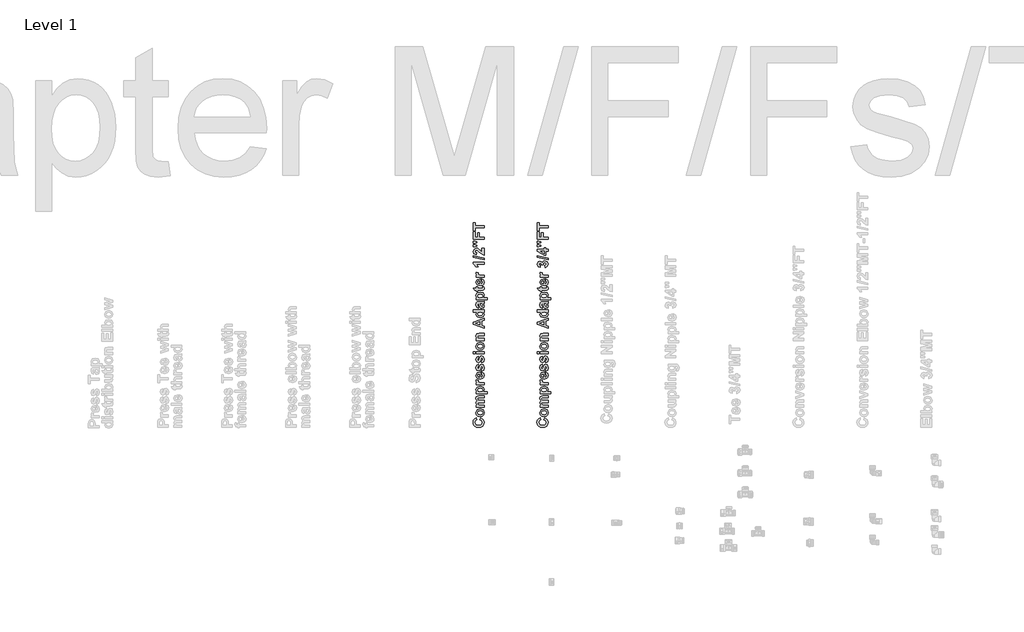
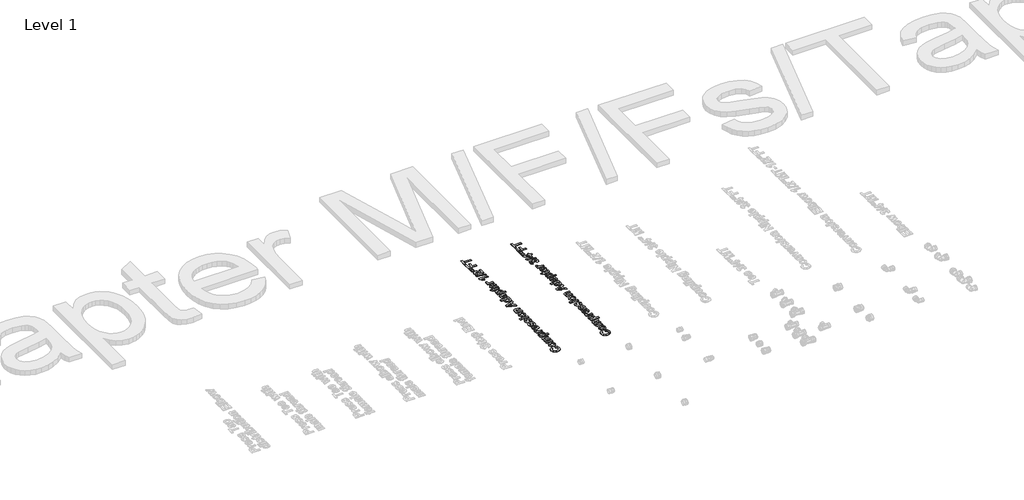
# One storey, part 54 of 58: 2 proxies.
"""IFC4 building model written with IfcOpenShell, lengths in millimetres."""

import ifcopenshell
import ifcopenshell.guid

model = None  # the IFC model being written
_history = None  # IfcOwnerHistory: only IFC2X3 demands one
_inside = {}  # id of a spatial element -> (the spatial element, [elements in it])
_under = {}  # id of a project, library or spatial element -> (it, [spatial elements below it])
_declared = {}  # id of a project -> (the project, [libraries it declares])
_typed = {}  # id of a type object -> (the type object, [elements of that type])
_made_of = {}  # id of a material, layer set ... -> (it, [elements and type objects made of it])


def new_model(schema):
    """Start an empty IFC model of exactly this schema.

    Asked for "IFC4X3", IfcOpenShell would pick the latest addendum, in which some entities
    have other attributes; the version numbers below select the first issue.
    IFC2X3 requires an IfcOwnerHistory on every rooted entity: one is made here for all.
    """
    global model, _history
    if schema == "IFC4X3":
        model = ifcopenshell.file(schema_version=(4, 3, 0, 0))
    else:
        model = ifcopenshell.file(schema=schema)
    _inside.clear()
    _under.clear()
    _declared.clear()
    _typed.clear()
    _made_of.clear()
    _history = None
    if model.schema == "IFC2X3":
        org = make("IfcOrganization", Name="unknown")
        user = make(
            "IfcPersonAndOrganization",
            ThePerson=make("IfcPerson", FamilyName="unknown"),
            TheOrganization=org,
        )
        app = make(
            "IfcApplication",
            ApplicationDeveloper=org,
            Version="unknown",
            ApplicationFullName="unknown",
            ApplicationIdentifier="unknown",
        )
        _history = make(
            "IfcOwnerHistory",
            OwningUser=user,
            OwningApplication=app,
            ChangeAction="ADDED",
            CreationDate=0,
        )
    return model


def make(cls, **values):
    """One entity of the class cls with the attributes given. An attribute that is None is left unset."""
    return model.create_entity(
        cls, **{name: value for name, value in values.items() if value is not None}
    )


def rooted(cls, **values):
    """An entity with a GlobalId (a new one), such as an element, a storey or a relation."""
    return make(cls, GlobalId=ifcopenshell.guid.new(), OwnerHistory=_history, **values)


def si_unit(unit_type, name, prefix=None):
    """IfcSIUnit, for example si_unit("LENGTHUNIT", "METRE", prefix="MILLI")."""
    return make("IfcSIUnit", UnitType=unit_type, Prefix=prefix, Name=name)


def assignment(units):
    """IfcUnitAssignment: the units of a project."""
    return None if units is None else make("IfcUnitAssignment", Units=units)


def point(xyz):
    """IfcCartesianPoint."""
    return None if xyz is None else make("IfcCartesianPoint", Coordinates=xyz)


def direction(xyz):
    """IfcDirection."""
    return None if xyz is None else make("IfcDirection", DirectionRatios=xyz)


def frame(location, z_axis=None, x_axis=None):
    """IfcAxis2Placement3D, a coordinate frame: its origin and axes. An axis left out is left unset."""
    return make(
        "IfcAxis2Placement3D",
        Location=point(location),
        Axis=direction(z_axis),
        RefDirection=direction(x_axis),
    )


def origin():
    """The frame at (0, 0, 0) with its axes left unset."""
    return frame((0.0, 0.0, 0.0))


def place(relative_to, where):
    """IfcLocalPlacement: puts the frame where relative to a parent placement (None: the world)."""
    return make(
        "IfcLocalPlacement", PlacementRelTo=relative_to, RelativePlacement=where
    )


def context(
    kind, dimensions, precision=None, world=None, true_north=None, identifier=None
):
    """IfcGeometricRepresentationContext, for example the 3D "Model" context."""
    return make(
        "IfcGeometricRepresentationContext",
        ContextIdentifier=identifier,
        ContextType=kind,
        CoordinateSpaceDimension=dimensions,
        Precision=precision,
        WorldCoordinateSystem=world,
        TrueNorth=true_north,
    )


def project(units=None, contexts=None):
    """IfcProject with its units and contexts."""
    return rooted(
        "IfcProject",
        Name="project",
        RepresentationContexts=contexts,
        UnitsInContext=assignment(units),
    )


def spatial(cls, under=None, at=None, **own):
    """A site, building, storey or space (cls), placed at a placement, below another one or the project."""
    s = rooted(cls, ObjectPlacement=at, **own)
    if under is not None:
        _under.setdefault(under.id(), (under, []))[1].append(s)
    return s


def polyline(points):
    """IfcPolyline through the points."""
    return make("IfcPolyline", Points=[point(p) for p in points])


def outline(outer, holes=None, kind="AREA"):
    """IfcArbitraryClosedProfileDef: a profile drawn as a closed curve; with holes, ...WithVoids."""
    if holes is None:
        return make("IfcArbitraryClosedProfileDef", ProfileType=kind, OuterCurve=outer)
    return make(
        "IfcArbitraryProfileDefWithVoids",
        ProfileType=kind,
        OuterCurve=outer,
        InnerCurves=holes,
    )


def extrude(swept, where, along, depth):
    """IfcExtrudedAreaSolid: the profile swept, set in the frame where, extruded along a direction by depth."""
    return make(
        "IfcExtrudedAreaSolid",
        SweptArea=swept,
        Position=where,
        ExtrudedDirection=direction(along),
        Depth=depth,
    )


def shape(context_of_items, identifier, shape_type, items):
    """IfcShapeRepresentation: the items that make up one representation, for example the "Body"."""
    return make(
        "IfcShapeRepresentation",
        ContextOfItems=context_of_items,
        RepresentationIdentifier=identifier,
        RepresentationType=shape_type,
        Items=items,
    )


def made_of(thing, what):
    """Note that an element or type object is made of a material, layer set ...; save() writes the relation."""
    if what is not None:
        _made_of.setdefault(what.id(), (what, []))[1].append(thing)
    return thing


def element(
    cls,
    number,
    at=None,
    inside=None,
    cuts=None,
    type_object=None,
    material=None,
    context=None,
    identifier="Body",
    shape_type=None,
    held_by="IfcProductDefinitionShape",
    body=None,
    shapes=None,
    **own,
):
    """One element of the class cls, such as IfcWall. Its Tag is "e" and its number.

    at: its placement. inside: the storey or other place that contains it. cuts: it is an
    opening in that element (IfcRelVoidsElement). A single representation is given by context,
    identifier, shape_type and body (its items); several are given by shapes. held_by: the class
    of the entity that holds the representations. save() writes the other relations.
    """
    e = rooted(cls, Tag="e%d" % number, ObjectPlacement=at, **own)
    if body is not None:
        shapes = [shape(context, identifier, shape_type, body)]
    if shapes is not None:
        e.Representation = make(held_by, Representations=shapes)
    if inside is not None:
        _inside.setdefault(inside.id(), (inside, []))[1].append(e)
    if cuts is not None:
        rooted(
            "IfcRelVoidsElement", RelatingBuildingElement=cuts, RelatedOpeningElement=e
        )
    if type_object is not None:
        _typed.setdefault(type_object.id(), (type_object, []))[1].append(e)
    return made_of(e, material)


def aggregate(whole, parts):
    """IfcRelAggregates: a whole, such as a stair, and the parts it consists of."""
    return rooted("IfcRelAggregates", RelatingObject=whole, RelatedObjects=parts)


def save(model, path):
    """Write the relations noted so far, then the file.

    IfcRelAggregates (storeys below a building ...), IfcRelContainedInSpatialStructure (elements
    in a storey), IfcRelDefinesByType, IfcRelAssociatesMaterial and IfcRelDeclares: one each for
    every whole, place, type object, material and project.
    """
    for whole, parts in _under.values():
        aggregate(whole, parts)
    for where, things in _inside.values():
        rooted(
            "IfcRelContainedInSpatialStructure",
            RelatedElements=things,
            RelatingStructure=where,
        )
    for kind, things in _typed.values():
        rooted("IfcRelDefinesByType", RelatedObjects=things, RelatingType=kind)
    for what, things in _made_of.values():
        rooted("IfcRelAssociatesMaterial", RelatedObjects=things, RelatingMaterial=what)
    for by, libraries in _declared.values():
        rooted("IfcRelDeclares", RelatingContext=by, RelatedDefinitions=libraries)
    model.write(path)


model = new_model("IFC4")

# Units and contexts
model_context = context("Model", 3, world=origin())
ifc_project = project(units=[si_unit("LENGTHUNIT", "METRE", prefix="MILLI")], contexts=[model_context])

# Site, building, storey
site = spatial("IfcSite", under=ifc_project)
building = spatial("IfcBuilding", under=site)
storey = spatial("IfcBuildingStorey", under=building, Name="Level 1", Elevation=27.3876384)

# Proxies
placement = place(None, origin())
element("IfcBuildingElementProxy", 1, Name="50mm Arial", ObjectType="50mm Arial", at=placement, inside=storey, context=model_context, shape_type="SweptSolid", body=[
    extrude(outline(polyline([(32399.7082138, 30439.3748851), (32402.9471325, 30449.0916413), (32415.1500119, 30441.4371654), (32419.1417262, 30427.8488892), (32417.4368656, 30418.5717909), (32412.322284, 30411.1102584), (32404.2502912, 30406.1949462), (32393.6731973, 30404.5565088), (32382.5583922, 30406.2091797), (32374.2396849, 30411.1671925), (32369.0491911, 30418.8200869), (32367.3190265, 30428.5574026), (32368.7455425, 30437.0848684), (32373.0250904, 30443.8410504), (32382.7038905, 30449.0916413), (32384.3233498, 30439.3748851), (32378.3958755, 30435.3452148), (32376.226053, 30427.8868453), (32380.1671592, 30418.0498948), (32392.9267277, 30414.273265), (32406.2619634, 30417.9360266), (32410.2346997, 30427.4693284), (32407.6979684, 30434.9023938), (32399.7082138, 30439.3748851)])), frame((0.0, 0.0, 27.3876384), z_axis=(0.0, 0.0, 1.0), x_axis=(1.0, 0.0, 0.0)), (0.0, 0.0, 1.0), 2.0),
    extrude(outline(polyline([(32399.9865584, 30454.7597491), (32390.5038647, 30457.1573081), (32383.5009681, 30463.9451202), (32381.0844311, 30473.7504406), (32386.5627585, 30487.4715631), (32400.4167273, 30492.8170442), (32414.4035423, 30487.4146289), (32419.9514559, 30473.8263527), (32417.6424611, 30464.1538786), (32410.867301, 30457.1573081), (32399.9865584, 30454.7597491)]), holes=[polyline([(32400.5179435, 30464.4765053), (32409.5325122, 30467.1650609), (32412.6638887, 30473.8010487), (32409.5325122, 30480.4243844), (32400.4420313, 30483.100288), (32391.5033747, 30480.4243844), (32388.3719982, 30473.8010487), (32391.5033747, 30467.1650609), (32400.5179435, 30464.4765053)])]), frame((0.0, 0.0, 27.3876384), z_axis=(0.0, 0.0, 1.0), x_axis=(1.0, 0.0, 0.0)), (0.0, 0.0, 1.0), 2.0),
    extrude(outline(polyline([(32381.8941608, 30499.2948816), (32381.8941608, 30509.0116378), (32386.8790591, 30509.0116378), (32381.0844311, 30519.8797284), (32382.5077841, 30525.6933345), (32386.815799, 30529.7356569), (32382.5077841, 30534.9040096), (32381.0844311, 30540.8314839), (32382.7481726, 30547.600318), (32387.6381807, 30551.7501826), (32395.3432647, 30552.7370407), (32419.1417262, 30552.7370407), (32419.1417262, 30543.0202845), (32397.6965416, 30543.0202845), (32390.4975387, 30542.0334264), (32388.3719982, 30537.959474), (32389.6435269, 30534.1954962), (32393.3695486, 30531.6524389), (32401.1252407, 30530.8743392), (32419.1417262, 30530.8743392), (32419.1417262, 30521.1575831), (32398.5821835, 30521.1575831), (32391.5160268, 30520.651502), (32389.1500979, 30519.0889768), (32388.3719982, 30516.2106408), (32389.6055708, 30512.2758606), (32393.1734422, 30509.7707594), (32400.9101563, 30509.0116378), (32419.1417262, 30509.0116378), (32419.1417262, 30499.2948816), (32381.8941608, 30499.2948816)])), frame((0.0, 0.0, 27.3876384), z_axis=(0.0, 0.0, 1.0), x_axis=(1.0, 0.0, 0.0)), (0.0, 0.0, 1.0), 2.0),
    extrude(outline(polyline([(32381.8941608, 30562.4537969), (32381.8941608, 30572.1705531), (32387.2586199, 30572.1705531), (32382.7924546, 30576.7885427), (32381.0844311, 30583.2537281), (32386.1642197, 30593.7612359), (32400.302859, 30598.0819029), (32414.7894291, 30593.6220636), (32419.9514559, 30582.8109072), (32418.7495134, 30577.3325798), (32414.6249528, 30572.1705531), (32432.9071308, 30572.1705531), (32432.9071308, 30562.4537969), (32381.8941608, 30562.4537969)]), holes=[polyline([(32399.8726901, 30572.1705531), (32409.5388382, 30574.6060681), (32412.6638887, 30580.5461945), (32409.7982048, 30586.1320641), (32400.3914232, 30588.3651467), (32391.3325724, 30586.0688039), (32388.3719982, 30580.3690661), (32391.2756383, 30574.5048519), (32399.8726901, 30572.1705531)])]), frame((0.0, 0.0, 27.3876384), z_axis=(0.0, 0.0, 1.0), x_axis=(1.0, 0.0, 0.0)), (0.0, 0.0, 1.0), 2.0),
    extrude(outline(polyline([(32419.1417262, 30615.0862262), (32419.1417262, 30605.36947), (32381.8941608, 30605.36947), (32381.8941608, 30615.0862262), (32387.0814916, 30615.0862262), (32382.2420915, 30618.9703983), (32381.0844311, 30622.8925265), (32383.1340594, 30628.8516308), (32392.3826906, 30626.0175769), (32390.8011873, 30621.5134556), (32391.9082396, 30618.0910825), (32395.8999539, 30615.8896299), (32407.995291, 30615.0862262), (32419.1417262, 30615.0862262)])), frame((0.0, 0.0, 27.3876384), z_axis=(0.0, 0.0, 1.0), x_axis=(1.0, 0.0, 0.0)), (0.0, 0.0, 1.0), 2.0),
    extrude(outline(polyline([(32407.8055106, 30653.953251), (32409.42497, 30663.6700072), (32417.2629003, 30657.8753791), (32419.9514559, 30647.9688426), (32418.3667896, 30639.7798185), (32413.6127907, 30634.0389616), (32400.7962881, 30630.4710902), (32386.32237, 30635.202948), (32381.0844311, 30647.1717649), (32386.4615423, 30659.9882675), (32402.9471325, 30664.4797369), (32402.9471325, 30640.1878464), (32410.1081794, 30642.4778631), (32412.6638887, 30647.9308865), (32411.5125543, 30651.6632342), (32407.8055106, 30653.953251)]), holes=[polyline([(32397.2790248, 30654.7629807), (32390.643037, 30652.5994842), (32388.3719982, 30647.5892818), (32390.7632312, 30642.3766469), (32397.2790248, 30640.3523227), (32397.2790248, 30654.7629807)])]), frame((0.0, 0.0, 27.3876384), z_axis=(0.0, 0.0, 1.0), x_axis=(1.0, 0.0, 0.0)), (0.0, 0.0, 1.0), 2.0),
    extrude(outline(polyline([(32408.6152403, 30667.7186556), (32406.9957809, 30677.4354118), (32411.2215577, 30679.9215349), (32412.6638887, 30685.1657998), (32411.2848179, 30690.7453434), (32408.7038045, 30692.0105461), (32406.8819127, 30691.3399887), (32405.604058, 30688.1643301), (32400.8468962, 30673.6018478), (32392.4839068, 30669.338115), (32384.3739579, 30672.9945506), (32381.0844311, 30684.3434181), (32383.7413566, 30695.2115087), (32391.610917, 30700.1078429), (32393.2303763, 30690.3910867), (32389.6245488, 30688.5185868), (32388.3719982, 30684.5964587), (32389.4347685, 30679.9784691), (32391.4084846, 30679.0548711), (32393.1671162, 30679.9784691), (32395.8873019, 30688.5755209), (32400.2269469, 30698.8426403), (32407.527166, 30701.7273023), (32416.2886942, 30697.5458076), (32419.9514559, 30685.1657998), (32416.9023175, 30673.3930894), (32408.6152403, 30667.7186556)])), frame((0.0, 0.0, 27.3876384), z_axis=(0.0, 0.0, 1.0), x_axis=(1.0, 0.0, 0.0)), (0.0, 0.0, 1.0), 2.0),
    extrude(outline(polyline([(32408.6152403, 30706.5856804), (32406.9957809, 30716.3024365), (32411.2215577, 30718.7885597), (32412.6638887, 30724.0328246), (32411.2848179, 30729.6123682), (32408.7038045, 30730.8775708), (32406.8819127, 30730.2070134), (32405.604058, 30727.0313548), (32400.8468962, 30712.4688726), (32392.4839068, 30708.2051397), (32384.3739579, 30711.8615753), (32381.0844311, 30723.2104429), (32383.7413566, 30734.0785335), (32391.610917, 30738.9748677), (32393.2303763, 30729.2581115), (32389.6245488, 30727.3856116), (32388.3719982, 30723.4634834), (32389.4347685, 30718.8454938), (32391.4084846, 30717.9218959), (32393.1671162, 30718.8454938), (32395.8873019, 30727.4425457), (32400.2269469, 30737.709665), (32407.527166, 30740.594327), (32416.2886942, 30736.4128323), (32419.9514559, 30724.0328246), (32416.9023175, 30712.2601141), (32408.6152403, 30706.5856804)])), frame((0.0, 0.0, 27.3876384), z_axis=(0.0, 0.0, 1.0), x_axis=(1.0, 0.0, 0.0)), (0.0, 0.0, 1.0), 2.0),
    extrude(outline(polyline([(32377.0357827, 30749.5013535), (32368.1287562, 30749.5013535), (32368.1287562, 30759.2181097), (32377.0357827, 30759.2181097), (32377.0357827, 30749.5013535)])), frame((0.0, 0.0, 27.3876384), z_axis=(0.0, 0.0, 1.0), x_axis=(1.0, 0.0, 0.0)), (0.0, 0.0, 1.0), 2.0),
    extrude(outline(polyline([(32419.1417262, 30749.5013535), (32381.8941608, 30749.5013535), (32381.8941608, 30759.2181097), (32419.1417262, 30759.2181097), (32419.1417262, 30749.5013535)])), frame((0.0, 0.0, 27.3876384), z_axis=(0.0, 0.0, 1.0), x_axis=(1.0, 0.0, 0.0)), (0.0, 0.0, 1.0), 2.0),
    extrude(outline(polyline([(32399.9865584, 30766.5056769), (32390.5038647, 30768.9032358), (32383.5009681, 30775.6910479), (32381.0844311, 30785.4963683), (32386.5627585, 30799.2174908), (32400.4167273, 30804.5629719), (32414.4035423, 30799.1605567), (32419.9514559, 30785.5722805), (32417.6424611, 30775.8998064), (32410.867301, 30768.9032358), (32399.9865584, 30766.5056769)]), holes=[polyline([(32400.5179435, 30776.222433), (32409.5325122, 30778.9109886), (32412.6638887, 30785.5469764), (32409.5325122, 30792.1703122), (32400.4420313, 30794.8462157), (32391.5033747, 30792.1703122), (32388.3719982, 30785.5469764), (32391.5033747, 30778.9109886), (32400.5179435, 30776.222433)])]), frame((0.0, 0.0, 27.3876384), z_axis=(0.0, 0.0, 1.0), x_axis=(1.0, 0.0, 0.0)), (0.0, 0.0, 1.0), 2.0),
    extrude(outline(polyline([(32419.1417262, 30845.0494561), (32419.1417262, 30835.3326999), (32399.9992104, 30835.3326999), (32392.1296501, 30834.7254026), (32389.3588563, 30832.7390345), (32388.3719982, 30829.4368556), (32389.7826992, 30824.9896684), (32393.527699, 30822.2947868), (32402.1500549, 30821.5672953), (32419.1417262, 30821.5672953), (32419.1417262, 30811.8505391), (32381.8941608, 30811.8505391), (32381.8941608, 30821.5672953), (32387.2586199, 30821.5672953), (32382.6279783, 30826.7830931), (32381.0844311, 30833.1945074), (32382.2610695, 30838.8373112), (32385.2595998, 30842.7088312), (32389.3904864, 30844.537049), (32396.0138221, 30845.0494561), (32419.1417262, 30845.0494561)])), frame((0.0, 0.0, 27.3876384), z_axis=(0.0, 0.0, 1.0), x_axis=(1.0, 0.0, 0.0)), (0.0, 0.0, 1.0), 2.0),
    extrude(outline(polyline([(32419.1417262, 30917.1153978), (32419.1417262, 30906.9052126), (32407.8055106, 30902.9071723), (32407.8055106, 30883.6381362), (32419.1417262, 30879.690704), (32419.1417262, 30869.3413465), (32368.1287562, 30887.9651292), (32368.1287562, 30898.3144867), (32419.1417262, 30917.1153978)]), holes=[polyline([(32398.8984841, 30899.7947738), (32380.2747014, 30893.2283722), (32398.8984841, 30886.7505347), (32398.8984841, 30899.7947738)])]), frame((0.0, 0.0, 27.3876384), z_axis=(0.0, 0.0, 1.0), x_axis=(1.0, 0.0, 0.0)), (0.0, 0.0, 1.0), 2.0),
    extrude(outline(polyline([(32419.1417262, 30955.1726929), (32419.1417262, 30945.4559367), (32413.777267, 30945.4559367), (32418.4268867, 30940.32554), (32419.9514559, 30934.3727617), (32414.7894291, 30923.9032099), (32400.3787712, 30919.5445869), (32386.0060693, 30923.8968839), (32381.0844311, 30934.9041468), (32386.1831977, 30945.4559367), (32368.1287562, 30945.4559367), (32368.1287562, 30955.1726929), (32419.1417262, 30955.1726929)]), holes=[polyline([(32399.80943, 30929.261343), (32408.6911525, 30930.8808024), (32412.6638887, 30937.4219), (32409.6843365, 30943.1153118), (32400.783636, 30945.4559367), (32391.2756383, 30943.184898), (32388.3719982, 30937.3586399), (32391.2440082, 30931.5893159), (32399.80943, 30929.261343)])]), frame((0.0, 0.0, 27.3876384), z_axis=(0.0, 0.0, 1.0), x_axis=(1.0, 0.0, 0.0)), (0.0, 0.0, 1.0), 2.0),
    extrude(outline(polyline([(32393.2303763, 30972.9867459), (32391.610917, 30964.0797194), (32383.6654445, 30968.9697276), (32381.0844311, 30979.274803), (32382.6469563, 30988.5234342), (32386.6070406, 30992.7998191), (32395.4191769, 30994.0397176), (32406.9072168, 30994.0397176), (32414.1441758, 30994.5521247), (32419.1417262, 30996.4689067), (32419.1417262, 30986.7521505), (32416.0546318, 30985.8412046), (32418.6672752, 30980.2996171), (32419.9514559, 30974.3911208), (32416.8327314, 30965.6548967), (32408.956845, 30962.46026), (32403.3393453, 30963.883613), (32399.5563895, 30967.8753273), (32397.2663727, 30975.2767627), (32394.8498357, 30984.3229615), (32389.6245488, 30983.1146929), (32388.3719982, 30978.5662895), (32389.4474205, 30975.0363742), (32393.2303763, 30972.9867459)]), holes=[polyline([(32402.1374028, 30984.3229615), (32403.4848436, 30978.8446341), (32405.0220648, 30973.9356479), (32408.1218113, 30972.1770162), (32411.3164479, 30973.5877171), (32412.6638887, 30977.1745666), (32411.0950375, 30981.8178602), (32408.1850714, 30983.9687047), (32403.8960345, 30984.3229615), (32402.1374028, 30984.3229615)])]), frame((0.0, 0.0, 27.3876384), z_axis=(0.0, 0.0, 1.0), x_axis=(1.0, 0.0, 0.0)), (0.0, 0.0, 1.0), 2.0),
    extrude(outline(polyline([(32381.8941608, 31003.7564738), (32381.8941608, 31013.47323), (32387.2586199, 31013.47323), (32382.7924546, 31018.0912196), (32381.0844311, 31024.5564051), (32386.1642197, 31035.0639129), (32400.302859, 31039.3845799), (32414.7894291, 31034.9247406), (32419.9514559, 31024.1135841), (32418.7495134, 31018.6352567), (32414.6249528, 31013.47323), (32432.9071308, 31013.47323), (32432.9071308, 31003.7564738), (32381.8941608, 31003.7564738)]), holes=[polyline([(32399.8726901, 31013.47323), (32409.5388382, 31015.9087451), (32412.6638887, 31021.8488714), (32409.7982048, 31027.434741), (32400.3914232, 31029.6678237), (32391.3325724, 31027.3714809), (32388.3719982, 31021.6717431), (32391.2756383, 31015.8075289), (32399.8726901, 31013.47323)])]), frame((0.0, 0.0, 27.3876384), z_axis=(0.0, 0.0, 1.0), x_axis=(1.0, 0.0, 0.0)), (0.0, 0.0, 1.0), 2.0),
    extrude(outline(polyline([(32381.8941608, 31064.4862), (32389.1817279, 31064.4862), (32389.1817279, 31057.1986329), (32405.1612371, 31057.1986329), (32410.8103669, 31057.4200433), (32412.1388296, 31058.4258794), (32412.6638887, 31060.3363354), (32411.7276388, 31064.8910649), (32418.6356451, 31065.2959297), (32419.9514559, 31057.3378052), (32419.04051, 31052.428819), (32416.6872331, 31049.2215303), (32412.777757, 31047.7981773), (32405.7052743, 31047.4818767), (32389.1817279, 31047.4818767), (32389.1817279, 31042.6234986), (32381.8941608, 31042.6234986), (32381.8941608, 31047.4818767), (32374.6065936, 31047.4818767), (32368.9384859, 31057.1986329), (32381.8941608, 31057.1986329), (32381.8941608, 31064.4862)])), frame((0.0, 0.0, 27.3876384), z_axis=(0.0, 0.0, 1.0), x_axis=(1.0, 0.0, 0.0)), (0.0, 0.0, 1.0), 2.0),
    extrude(outline(polyline([(32407.8055106, 31091.2072795), (32409.42497, 31100.9240357), (32417.2629003, 31095.1294077), (32419.9514559, 31085.2228711), (32418.3667896, 31077.0338471), (32413.6127907, 31071.2929902), (32400.7962881, 31067.7251188), (32386.32237, 31072.4569766), (32381.0844311, 31084.4257935), (32386.4615423, 31097.2422961), (32402.9471325, 31101.7337654), (32402.9471325, 31077.4418749), (32410.1081794, 31079.7318917), (32412.6638887, 31085.184915), (32411.5125543, 31088.9172628), (32407.8055106, 31091.2072795)]), holes=[polyline([(32397.2790248, 31092.0170092), (32390.643037, 31089.8535127), (32388.3719982, 31084.8433103), (32390.7632312, 31079.6306755), (32397.2790248, 31077.6063513), (32397.2790248, 31092.0170092)])]), frame((0.0, 0.0, 27.3876384), z_axis=(0.0, 0.0, 1.0), x_axis=(1.0, 0.0, 0.0)), (0.0, 0.0, 1.0), 2.0),
    extrude(outline(polyline([(32419.1417262, 31118.7380887), (32419.1417262, 31109.0213326), (32381.8941608, 31109.0213326), (32381.8941608, 31118.7380887), (32387.0814916, 31118.7380887), (32382.2420915, 31122.6222608), (32381.0844311, 31126.544389), (32383.1340594, 31132.5034934), (32392.3826906, 31129.6694395), (32390.8011873, 31125.1653181), (32391.9082396, 31121.742945), (32395.8999539, 31119.5414924), (32407.995291, 31118.7380887), (32419.1417262, 31118.7380887)])), frame((0.0, 0.0, 27.3876384), z_axis=(0.0, 0.0, 1.0), x_axis=(1.0, 0.0, 0.0)), (0.0, 0.0, 1.0), 2.0),
    extrude(outline(polyline([(32419.1417262, 31178.6580853), (32419.1417262, 31168.9413291), (32382.6785864, 31168.9413291), (32390.8011873, 31156.7953838), (32381.0844311, 31156.7953838), (32376.3209432, 31164.9053327), (32368.1287562, 31170.9150452), (32368.1287562, 31178.6580853), (32419.1417262, 31178.6580853)])), frame((0.0, 0.0, 27.3876384), z_axis=(0.0, 0.0, 1.0), x_axis=(1.0, 0.0, 0.0)), (0.0, 0.0, 1.0), 2.0),
    extrude(outline(polyline([(32419.1417262, 31189.8171724), (32368.1287562, 31201.9631177), (32368.1287562, 31209.4278132), (32419.1417262, 31197.281868), (32419.1417262, 31189.8171724)])), frame((0.0, 0.0, 27.3876384), z_axis=(0.0, 0.0, 1.0), x_axis=(1.0, 0.0, 0.0)), (0.0, 0.0, 1.0), 2.0),
    extrude(outline(polyline([(32409.42497, 31245.0559192), (32419.1417262, 31245.0559192), (32419.1417262, 31212.6667319), (32409.6084244, 31215.7664784), (32397.6585855, 31225.9513595), (32389.5106806, 31233.4666631), (32383.6654445, 31235.339163), (32378.7501322, 31233.7639858), (32377.0357827, 31229.4180147), (32378.7248282, 31225.0657177), (32384.3233498, 31223.1932178), (32383.437708, 31213.4764616), (32371.6903016, 31218.6890964), (32368.1287562, 31229.6330992), (32372.1204705, 31240.9440107), (32382.0459851, 31245.0559192), (32388.4732145, 31243.9298889), (32394.8624877, 31240.3620175), (32401.239109, 31234.3206749), (32406.7680445, 31228.7727614), (32409.42497, 31226.9508696), (32409.42497, 31245.0559192)])), frame((0.0, 0.0, 27.3876384), z_axis=(0.0, 0.0, 1.0), x_axis=(1.0, 0.0, 0.0)), (0.0, 0.0, 1.0), 2.0),
    extrude(outline(polyline([(32385.9428092, 31253.2164762), (32376.6056138, 31251.5337567), (32368.1287562, 31251.5337567), (32368.1287562, 31261.2505129), (32376.6056138, 31261.2505129), (32385.9428092, 31259.7955298), (32385.9428092, 31253.2164762)])), frame((0.0, 0.0, 27.3876384), z_axis=(0.0, 0.0, 1.0), x_axis=(1.0, 0.0, 0.0)), (0.0, 0.0, 1.0), 2.0),
    extrude(outline(polyline([(32385.9428092, 31269.4110698), (32376.6056138, 31267.7283503), (32368.1287562, 31267.7283503), (32368.1287562, 31277.4451065), (32376.6056138, 31277.4451065), (32385.9428092, 31275.9901235), (32385.9428092, 31269.4110698)])), frame((0.0, 0.0, 27.3876384), z_axis=(0.0, 0.0, 1.0), x_axis=(1.0, 0.0, 0.0)), (0.0, 0.0, 1.0), 2.0),
    extrude(outline(polyline([(32419.1417262, 31286.352133), (32368.1287562, 31286.352133), (32368.1287562, 31321.1705094), (32377.0357827, 31321.1705094), (32377.0357827, 31296.0688892), (32388.3719982, 31296.0688892), (32388.3719982, 31317.9315906), (32397.2790248, 31317.9315906), (32397.2790248, 31296.0688892), (32419.1417262, 31296.0688892), (32419.1417262, 31286.352133)])), frame((0.0, 0.0, 27.3876384), z_axis=(0.0, 0.0, 1.0), x_axis=(1.0, 0.0, 0.0)), (0.0, 0.0, 1.0), 2.0),
    extrude(outline(polyline([(32419.1417262, 31340.6040218), (32377.0357827, 31340.6040218), (32377.0357827, 31326.0288875), (32368.1287562, 31326.0288875), (32368.1287562, 31364.8959122), (32377.0357827, 31364.8959122), (32377.0357827, 31350.3207779), (32419.1417262, 31350.3207779), (32419.1417262, 31340.6040218)])), frame((0.0, 0.0, 27.3876384), z_axis=(0.0, 0.0, 1.0), x_axis=(1.0, 0.0, 0.0)), (0.0, 0.0, 1.0), 2.0),
])
element("IfcBuildingElementProxy", 2, Name="50mm Arial", ObjectType="50mm Arial", at=placement, inside=storey, context=model_context, shape_type="SweptSolid", body=[
    extrude(outline(polyline([(32699.7082138, 30439.3748851), (32702.9471325, 30449.0916413), (32715.1500119, 30441.4371654), (32719.1417262, 30427.8488892), (32717.4368656, 30418.5717909), (32712.322284, 30411.1102584), (32704.2502912, 30406.1949462), (32693.6731973, 30404.5565088), (32682.5583922, 30406.2091797), (32674.2396849, 30411.1671925), (32669.0491911, 30418.8200869), (32667.3190265, 30428.5574026), (32668.7455425, 30437.0848684), (32673.0250904, 30443.8410504), (32682.7038905, 30449.0916413), (32684.3233498, 30439.3748851), (32678.3958755, 30435.3452148), (32676.226053, 30427.8868453), (32680.1671592, 30418.0498948), (32692.9267277, 30414.273265), (32706.2619634, 30417.9360266), (32710.2346997, 30427.4693284), (32707.6979684, 30434.9023938), (32699.7082138, 30439.3748851)])), frame((0.0, 0.0, 27.3876384), z_axis=(0.0, 0.0, 1.0), x_axis=(1.0, 0.0, 0.0)), (0.0, 0.0, 1.0), 2.0),
    extrude(outline(polyline([(32699.9865584, 30454.7597491), (32690.5038647, 30457.1573081), (32683.5009681, 30463.9451202), (32681.0844311, 30473.7504406), (32686.5627585, 30487.4715631), (32700.4167273, 30492.8170442), (32714.4035423, 30487.4146289), (32719.9514559, 30473.8263527), (32717.6424611, 30464.1538786), (32710.867301, 30457.1573081), (32699.9865584, 30454.7597491)]), holes=[polyline([(32700.5179435, 30464.4765053), (32709.5325122, 30467.1650609), (32712.6638887, 30473.8010487), (32709.5325122, 30480.4243844), (32700.4420313, 30483.100288), (32691.5033747, 30480.4243844), (32688.3719982, 30473.8010487), (32691.5033747, 30467.1650609), (32700.5179435, 30464.4765053)])]), frame((0.0, 0.0, 27.3876384), z_axis=(0.0, 0.0, 1.0), x_axis=(1.0, 0.0, 0.0)), (0.0, 0.0, 1.0), 2.0),
    extrude(outline(polyline([(32681.8941608, 30499.2948816), (32681.8941608, 30509.0116378), (32686.8790591, 30509.0116378), (32681.0844311, 30519.8797284), (32682.5077841, 30525.6933345), (32686.815799, 30529.7356569), (32682.5077841, 30534.9040096), (32681.0844311, 30540.8314839), (32682.7481726, 30547.600318), (32687.6381807, 30551.7501826), (32695.3432647, 30552.7370407), (32719.1417262, 30552.7370407), (32719.1417262, 30543.0202845), (32697.6965416, 30543.0202845), (32690.4975387, 30542.0334264), (32688.3719982, 30537.959474), (32689.6435269, 30534.1954962), (32693.3695486, 30531.6524389), (32701.1252407, 30530.8743392), (32719.1417262, 30530.8743392), (32719.1417262, 30521.1575831), (32698.5821835, 30521.1575831), (32691.5160268, 30520.651502), (32689.1500979, 30519.0889768), (32688.3719982, 30516.2106408), (32689.6055708, 30512.2758606), (32693.1734422, 30509.7707594), (32700.9101563, 30509.0116378), (32719.1417262, 30509.0116378), (32719.1417262, 30499.2948816), (32681.8941608, 30499.2948816)])), frame((0.0, 0.0, 27.3876384), z_axis=(0.0, 0.0, 1.0), x_axis=(1.0, 0.0, 0.0)), (0.0, 0.0, 1.0), 2.0),
    extrude(outline(polyline([(32681.8941608, 30562.4537969), (32681.8941608, 30572.1705531), (32687.2586199, 30572.1705531), (32682.7924546, 30576.7885427), (32681.0844311, 30583.2537281), (32686.1642197, 30593.7612359), (32700.302859, 30598.0819029), (32714.7894291, 30593.6220636), (32719.9514559, 30582.8109072), (32718.7495134, 30577.3325798), (32714.6249528, 30572.1705531), (32732.9071308, 30572.1705531), (32732.9071308, 30562.4537969), (32681.8941608, 30562.4537969)]), holes=[polyline([(32699.8726901, 30572.1705531), (32709.5388382, 30574.6060681), (32712.6638887, 30580.5461945), (32709.7982048, 30586.1320641), (32700.3914232, 30588.3651467), (32691.3325724, 30586.0688039), (32688.3719982, 30580.3690661), (32691.2756383, 30574.5048519), (32699.8726901, 30572.1705531)])]), frame((0.0, 0.0, 27.3876384), z_axis=(0.0, 0.0, 1.0), x_axis=(1.0, 0.0, 0.0)), (0.0, 0.0, 1.0), 2.0),
    extrude(outline(polyline([(32719.1417262, 30615.0862262), (32719.1417262, 30605.36947), (32681.8941608, 30605.36947), (32681.8941608, 30615.0862262), (32687.0814916, 30615.0862262), (32682.2420915, 30618.9703983), (32681.0844311, 30622.8925265), (32683.1340594, 30628.8516308), (32692.3826906, 30626.0175769), (32690.8011873, 30621.5134556), (32691.9082396, 30618.0910825), (32695.8999539, 30615.8896299), (32707.995291, 30615.0862262), (32719.1417262, 30615.0862262)])), frame((0.0, 0.0, 27.3876384), z_axis=(0.0, 0.0, 1.0), x_axis=(1.0, 0.0, 0.0)), (0.0, 0.0, 1.0), 2.0),
    extrude(outline(polyline([(32707.8055106, 30653.953251), (32709.42497, 30663.6700072), (32717.2629003, 30657.8753791), (32719.9514559, 30647.9688426), (32718.3667896, 30639.7798185), (32713.6127907, 30634.0389616), (32700.7962881, 30630.4710902), (32686.32237, 30635.202948), (32681.0844311, 30647.1717649), (32686.4615423, 30659.9882675), (32702.9471325, 30664.4797369), (32702.9471325, 30640.1878464), (32710.1081794, 30642.4778631), (32712.6638887, 30647.9308865), (32711.5125543, 30651.6632342), (32707.8055106, 30653.953251)]), holes=[polyline([(32697.2790248, 30654.7629807), (32690.643037, 30652.5994842), (32688.3719982, 30647.5892818), (32690.7632312, 30642.3766469), (32697.2790248, 30640.3523227), (32697.2790248, 30654.7629807)])]), frame((0.0, 0.0, 27.3876384), z_axis=(0.0, 0.0, 1.0), x_axis=(1.0, 0.0, 0.0)), (0.0, 0.0, 1.0), 2.0),
    extrude(outline(polyline([(32708.6152403, 30667.7186556), (32706.9957809, 30677.4354118), (32711.2215577, 30679.9215349), (32712.6638887, 30685.1657998), (32711.2848179, 30690.7453434), (32708.7038045, 30692.0105461), (32706.8819127, 30691.3399887), (32705.604058, 30688.1643301), (32700.8468962, 30673.6018478), (32692.4839068, 30669.338115), (32684.3739579, 30672.9945506), (32681.0844311, 30684.3434181), (32683.7413566, 30695.2115087), (32691.610917, 30700.1078429), (32693.2303763, 30690.3910867), (32689.6245488, 30688.5185868), (32688.3719982, 30684.5964587), (32689.4347685, 30679.9784691), (32691.4084846, 30679.0548711), (32693.1671162, 30679.9784691), (32695.8873019, 30688.5755209), (32700.2269469, 30698.8426403), (32707.527166, 30701.7273023), (32716.2886942, 30697.5458076), (32719.9514559, 30685.1657998), (32716.9023175, 30673.3930894), (32708.6152403, 30667.7186556)])), frame((0.0, 0.0, 27.3876384), z_axis=(0.0, 0.0, 1.0), x_axis=(1.0, 0.0, 0.0)), (0.0, 0.0, 1.0), 2.0),
    extrude(outline(polyline([(32708.6152403, 30706.5856804), (32706.9957809, 30716.3024365), (32711.2215577, 30718.7885597), (32712.6638887, 30724.0328246), (32711.2848179, 30729.6123682), (32708.7038045, 30730.8775708), (32706.8819127, 30730.2070134), (32705.604058, 30727.0313548), (32700.8468962, 30712.4688726), (32692.4839068, 30708.2051397), (32684.3739579, 30711.8615753), (32681.0844311, 30723.2104429), (32683.7413566, 30734.0785335), (32691.610917, 30738.9748677), (32693.2303763, 30729.2581115), (32689.6245488, 30727.3856116), (32688.3719982, 30723.4634834), (32689.4347685, 30718.8454938), (32691.4084846, 30717.9218959), (32693.1671162, 30718.8454938), (32695.8873019, 30727.4425457), (32700.2269469, 30737.709665), (32707.527166, 30740.594327), (32716.2886942, 30736.4128323), (32719.9514559, 30724.0328246), (32716.9023175, 30712.2601141), (32708.6152403, 30706.5856804)])), frame((0.0, 0.0, 27.3876384), z_axis=(0.0, 0.0, 1.0), x_axis=(1.0, 0.0, 0.0)), (0.0, 0.0, 1.0), 2.0),
    extrude(outline(polyline([(32677.0357827, 30749.5013535), (32668.1287562, 30749.5013535), (32668.1287562, 30759.2181097), (32677.0357827, 30759.2181097), (32677.0357827, 30749.5013535)])), frame((0.0, 0.0, 27.3876384), z_axis=(0.0, 0.0, 1.0), x_axis=(1.0, 0.0, 0.0)), (0.0, 0.0, 1.0), 2.0),
    extrude(outline(polyline([(32719.1417262, 30749.5013535), (32681.8941608, 30749.5013535), (32681.8941608, 30759.2181097), (32719.1417262, 30759.2181097), (32719.1417262, 30749.5013535)])), frame((0.0, 0.0, 27.3876384), z_axis=(0.0, 0.0, 1.0), x_axis=(1.0, 0.0, 0.0)), (0.0, 0.0, 1.0), 2.0),
    extrude(outline(polyline([(32699.9865584, 30766.5056769), (32690.5038647, 30768.9032358), (32683.5009681, 30775.6910479), (32681.0844311, 30785.4963683), (32686.5627585, 30799.2174908), (32700.4167273, 30804.5629719), (32714.4035423, 30799.1605567), (32719.9514559, 30785.5722805), (32717.6424611, 30775.8998064), (32710.867301, 30768.9032358), (32699.9865584, 30766.5056769)]), holes=[polyline([(32700.5179435, 30776.222433), (32709.5325122, 30778.9109886), (32712.6638887, 30785.5469764), (32709.5325122, 30792.1703122), (32700.4420313, 30794.8462157), (32691.5033747, 30792.1703122), (32688.3719982, 30785.5469764), (32691.5033747, 30778.9109886), (32700.5179435, 30776.222433)])]), frame((0.0, 0.0, 27.3876384), z_axis=(0.0, 0.0, 1.0), x_axis=(1.0, 0.0, 0.0)), (0.0, 0.0, 1.0), 2.0),
    extrude(outline(polyline([(32719.1417262, 30845.0494561), (32719.1417262, 30835.3326999), (32699.9992104, 30835.3326999), (32692.1296501, 30834.7254026), (32689.3588563, 30832.7390345), (32688.3719982, 30829.4368556), (32689.7826992, 30824.9896684), (32693.527699, 30822.2947868), (32702.1500549, 30821.5672953), (32719.1417262, 30821.5672953), (32719.1417262, 30811.8505391), (32681.8941608, 30811.8505391), (32681.8941608, 30821.5672953), (32687.2586199, 30821.5672953), (32682.6279783, 30826.7830931), (32681.0844311, 30833.1945074), (32682.2610695, 30838.8373112), (32685.2595998, 30842.7088312), (32689.3904864, 30844.537049), (32696.0138221, 30845.0494561), (32719.1417262, 30845.0494561)])), frame((0.0, 0.0, 27.3876384), z_axis=(0.0, 0.0, 1.0), x_axis=(1.0, 0.0, 0.0)), (0.0, 0.0, 1.0), 2.0),
    extrude(outline(polyline([(32719.1417262, 30917.1153978), (32719.1417262, 30906.9052126), (32707.8055106, 30902.9071723), (32707.8055106, 30883.6381362), (32719.1417262, 30879.690704), (32719.1417262, 30869.3413465), (32668.1287562, 30887.9651292), (32668.1287562, 30898.3144867), (32719.1417262, 30917.1153978)]), holes=[polyline([(32698.8984841, 30899.7947738), (32680.2747014, 30893.2283722), (32698.8984841, 30886.7505347), (32698.8984841, 30899.7947738)])]), frame((0.0, 0.0, 27.3876384), z_axis=(0.0, 0.0, 1.0), x_axis=(1.0, 0.0, 0.0)), (0.0, 0.0, 1.0), 2.0),
    extrude(outline(polyline([(32719.1417262, 30955.1726929), (32719.1417262, 30945.4559367), (32713.777267, 30945.4559367), (32718.4268867, 30940.32554), (32719.9514559, 30934.3727617), (32714.7894291, 30923.9032099), (32700.3787712, 30919.5445869), (32686.0060693, 30923.8968839), (32681.0844311, 30934.9041468), (32686.1831977, 30945.4559367), (32668.1287562, 30945.4559367), (32668.1287562, 30955.1726929), (32719.1417262, 30955.1726929)]), holes=[polyline([(32699.80943, 30929.261343), (32708.6911525, 30930.8808024), (32712.6638887, 30937.4219), (32709.6843365, 30943.1153118), (32700.783636, 30945.4559367), (32691.2756383, 30943.184898), (32688.3719982, 30937.3586399), (32691.2440082, 30931.5893159), (32699.80943, 30929.261343)])]), frame((0.0, 0.0, 27.3876384), z_axis=(0.0, 0.0, 1.0), x_axis=(1.0, 0.0, 0.0)), (0.0, 0.0, 1.0), 2.0),
    extrude(outline(polyline([(32693.2303763, 30972.9867459), (32691.610917, 30964.0797194), (32683.6654445, 30968.9697276), (32681.0844311, 30979.274803), (32682.6469563, 30988.5234342), (32686.6070406, 30992.7998191), (32695.4191769, 30994.0397176), (32706.9072168, 30994.0397176), (32714.1441758, 30994.5521247), (32719.1417262, 30996.4689067), (32719.1417262, 30986.7521505), (32716.0546318, 30985.8412046), (32718.6672752, 30980.2996171), (32719.9514559, 30974.3911208), (32716.8327314, 30965.6548967), (32708.956845, 30962.46026), (32703.3393453, 30963.883613), (32699.5563895, 30967.8753273), (32697.2663727, 30975.2767627), (32694.8498357, 30984.3229615), (32689.6245488, 30983.1146929), (32688.3719982, 30978.5662895), (32689.4474205, 30975.0363742), (32693.2303763, 30972.9867459)]), holes=[polyline([(32702.1374028, 30984.3229615), (32703.4848436, 30978.8446341), (32705.0220648, 30973.9356479), (32708.1218113, 30972.1770162), (32711.3164479, 30973.5877171), (32712.6638887, 30977.1745666), (32711.0950375, 30981.8178602), (32708.1850714, 30983.9687047), (32703.8960345, 30984.3229615), (32702.1374028, 30984.3229615)])]), frame((0.0, 0.0, 27.3876384), z_axis=(0.0, 0.0, 1.0), x_axis=(1.0, 0.0, 0.0)), (0.0, 0.0, 1.0), 2.0),
    extrude(outline(polyline([(32681.8941608, 31003.7564738), (32681.8941608, 31013.47323), (32687.2586199, 31013.47323), (32682.7924546, 31018.0912196), (32681.0844311, 31024.5564051), (32686.1642197, 31035.0639129), (32700.302859, 31039.3845799), (32714.7894291, 31034.9247406), (32719.9514559, 31024.1135841), (32718.7495134, 31018.6352567), (32714.6249528, 31013.47323), (32732.9071308, 31013.47323), (32732.9071308, 31003.7564738), (32681.8941608, 31003.7564738)]), holes=[polyline([(32699.8726901, 31013.47323), (32709.5388382, 31015.9087451), (32712.6638887, 31021.8488714), (32709.7982048, 31027.434741), (32700.3914232, 31029.6678237), (32691.3325724, 31027.3714809), (32688.3719982, 31021.6717431), (32691.2756383, 31015.8075289), (32699.8726901, 31013.47323)])]), frame((0.0, 0.0, 27.3876384), z_axis=(0.0, 0.0, 1.0), x_axis=(1.0, 0.0, 0.0)), (0.0, 0.0, 1.0), 2.0),
    extrude(outline(polyline([(32681.8941608, 31064.4862), (32689.1817279, 31064.4862), (32689.1817279, 31057.1986329), (32705.1612371, 31057.1986329), (32710.8103669, 31057.4200433), (32712.1388296, 31058.4258794), (32712.6638887, 31060.3363354), (32711.7276388, 31064.8910649), (32718.6356451, 31065.2959297), (32719.9514559, 31057.3378052), (32719.04051, 31052.428819), (32716.6872331, 31049.2215303), (32712.777757, 31047.7981773), (32705.7052743, 31047.4818767), (32689.1817279, 31047.4818767), (32689.1817279, 31042.6234986), (32681.8941608, 31042.6234986), (32681.8941608, 31047.4818767), (32674.6065936, 31047.4818767), (32668.9384859, 31057.1986329), (32681.8941608, 31057.1986329), (32681.8941608, 31064.4862)])), frame((0.0, 0.0, 27.3876384), z_axis=(0.0, 0.0, 1.0), x_axis=(1.0, 0.0, 0.0)), (0.0, 0.0, 1.0), 2.0),
    extrude(outline(polyline([(32707.8055106, 31091.2072795), (32709.42497, 31100.9240357), (32717.2629003, 31095.1294077), (32719.9514559, 31085.2228711), (32718.3667896, 31077.0338471), (32713.6127907, 31071.2929902), (32700.7962881, 31067.7251188), (32686.32237, 31072.4569766), (32681.0844311, 31084.4257935), (32686.4615423, 31097.2422961), (32702.9471325, 31101.7337654), (32702.9471325, 31077.4418749), (32710.1081794, 31079.7318917), (32712.6638887, 31085.184915), (32711.5125543, 31088.9172628), (32707.8055106, 31091.2072795)]), holes=[polyline([(32697.2790248, 31092.0170092), (32690.643037, 31089.8535127), (32688.3719982, 31084.8433103), (32690.7632312, 31079.6306755), (32697.2790248, 31077.6063513), (32697.2790248, 31092.0170092)])]), frame((0.0, 0.0, 27.3876384), z_axis=(0.0, 0.0, 1.0), x_axis=(1.0, 0.0, 0.0)), (0.0, 0.0, 1.0), 2.0),
    extrude(outline(polyline([(32719.1417262, 31118.7380887), (32719.1417262, 31109.0213326), (32681.8941608, 31109.0213326), (32681.8941608, 31118.7380887), (32687.0814916, 31118.7380887), (32682.2420915, 31122.6222608), (32681.0844311, 31126.544389), (32683.1340594, 31132.5034934), (32692.3826906, 31129.6694395), (32690.8011873, 31125.1653181), (32691.9082396, 31121.742945), (32695.8999539, 31119.5414924), (32707.995291, 31118.7380887), (32719.1417262, 31118.7380887)])), frame((0.0, 0.0, 27.3876384), z_axis=(0.0, 0.0, 1.0), x_axis=(1.0, 0.0, 0.0)), (0.0, 0.0, 1.0), 2.0),
    extrude(outline(polyline([(32704.8828926, 31154.3661948), (32703.7568622, 31164.082951), (32709.1719295, 31166.2717515), (32711.0444294, 31170.5860925), (32708.8999109, 31175.178778), (32703.1242609, 31177.0386259), (32697.6712376, 31175.3369284), (32695.6595654, 31171.1807377), (32696.3807309, 31167.3218697), (32688.3719982, 31168.1695555), (32686.7778429, 31172.9583474), (32682.2737216, 31174.6094368), (32678.4591356, 31173.3758643), (32677.0357827, 31170.0926635), (32678.6868721, 31166.6323343), (32683.5136201, 31164.8926807), (32682.0586371, 31155.1759245), (32674.3345751, 31157.851828), (32669.7861716, 31162.8493784), (32668.1287562, 31170.0294033), (32672.7214417, 31180.93545), (32681.2236034, 31184.326193), (32687.2617829, 31182.5074643), (32691.9398697, 31177.0512779), (32696.1087123, 31184.1111086), (32703.9339906, 31186.7553821), (32715.2638801, 31182.0678063), (32719.9514559, 31170.3963121), (32715.7826132, 31159.4206793), (32704.8828926, 31154.3661948)])), frame((0.0, 0.0, 27.3876384), z_axis=(0.0, 0.0, 1.0), x_axis=(1.0, 0.0, 0.0)), (0.0, 0.0, 1.0), 2.0),
    extrude(outline(polyline([(32719.1417262, 31189.8171724), (32668.1287562, 31201.9631177), (32668.1287562, 31209.4278132), (32719.1417262, 31197.281868), (32719.1417262, 31189.8171724)])), frame((0.0, 0.0, 27.3876384), z_axis=(0.0, 0.0, 1.0), x_axis=(1.0, 0.0, 0.0)), (0.0, 0.0, 1.0), 2.0),
    extrude(outline(polyline([(32719.1417262, 31230.4807849), (32708.6152403, 31230.4807849), (32708.6152403, 31211.0472726), (32700.5558996, 31211.0472726), (32668.9384859, 31231.7712916), (32668.9384859, 31240.1975411), (32700.5179435, 31240.1975411), (32700.5179435, 31246.6753786), (32708.6152403, 31246.6753786), (32708.6152403, 31240.1975411), (32719.1417262, 31240.1975411), (32719.1417262, 31230.4807849)]), holes=[polyline([(32700.5179435, 31230.4807849), (32683.943789, 31230.4807849), (32700.5179435, 31219.6253464), (32700.5179435, 31230.4807849)])]), frame((0.0, 0.0, 27.3876384), z_axis=(0.0, 0.0, 1.0), x_axis=(1.0, 0.0, 0.0)), (0.0, 0.0, 1.0), 2.0),
    extrude(outline(polyline([(32685.9428092, 31253.2164762), (32676.6056138, 31251.5337567), (32668.1287562, 31251.5337567), (32668.1287562, 31261.2505129), (32676.6056138, 31261.2505129), (32685.9428092, 31259.7955298), (32685.9428092, 31253.2164762)])), frame((0.0, 0.0, 27.3876384), z_axis=(0.0, 0.0, 1.0), x_axis=(1.0, 0.0, 0.0)), (0.0, 0.0, 1.0), 2.0),
    extrude(outline(polyline([(32685.9428092, 31269.4110698), (32676.6056138, 31267.7283503), (32668.1287562, 31267.7283503), (32668.1287562, 31277.4451065), (32676.6056138, 31277.4451065), (32685.9428092, 31275.9901235), (32685.9428092, 31269.4110698)])), frame((0.0, 0.0, 27.3876384), z_axis=(0.0, 0.0, 1.0), x_axis=(1.0, 0.0, 0.0)), (0.0, 0.0, 1.0), 2.0),
    extrude(outline(polyline([(32719.1417262, 31286.352133), (32668.1287562, 31286.352133), (32668.1287562, 31321.1705094), (32677.0357827, 31321.1705094), (32677.0357827, 31296.0688892), (32688.3719982, 31296.0688892), (32688.3719982, 31317.9315906), (32697.2790248, 31317.9315906), (32697.2790248, 31296.0688892), (32719.1417262, 31296.0688892), (32719.1417262, 31286.352133)])), frame((0.0, 0.0, 27.3876384), z_axis=(0.0, 0.0, 1.0), x_axis=(1.0, 0.0, 0.0)), (0.0, 0.0, 1.0), 2.0),
    extrude(outline(polyline([(32719.1417262, 31340.6040218), (32677.0357827, 31340.6040218), (32677.0357827, 31326.0288875), (32668.1287562, 31326.0288875), (32668.1287562, 31364.8959122), (32677.0357827, 31364.8959122), (32677.0357827, 31350.3207779), (32719.1417262, 31350.3207779), (32719.1417262, 31340.6040218)])), frame((0.0, 0.0, 27.3876384), z_axis=(0.0, 0.0, 1.0), x_axis=(1.0, 0.0, 0.0)), (0.0, 0.0, 1.0), 2.0),
])

save(model, "model.ifc")
